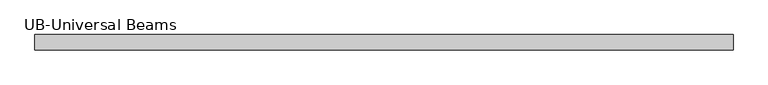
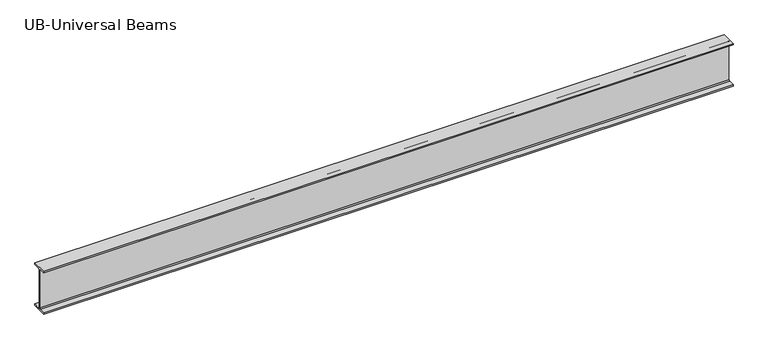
"""IFC4 building model written with IfcOpenShell, lengths in millimetres: beam geometry."""

from ifc_helpers import new_model, si_unit, point, frame, frame_2d, origin, place, context, project, spatial, polyline, circle_curve, trimmed, segment, composite_curve, outline, extrude, source, transform, mapped, element, save


def ub_universal_beams_c84566a2(model_context):
    return source(origin(), model_context, "Body", "SweptSolid", [
        extrude(outline(composite_curve([segment(polyline([(76.9, -214.0), (76.9, -229.0), (-76.9, -229.0), (-76.9, -214.0), (-14.7, -214.0)]), True, "CONTINUOUS"), segment(trimmed(circle_curve(frame_2d((-14.7, -203.8)), 10.2), [point((-14.7, -214.0))], [point((-4.5, -203.8))], True, "CARTESIAN"), True, "CONTINUOUS"), segment(polyline([(-4.5, -203.8), (-4.5, 203.8)]), True, "CONTINUOUS"), segment(trimmed(circle_curve(frame_2d((-14.7, 203.8)), 10.2), [point((-4.5, 203.8))], [point((-14.7, 214.0))], True, "CARTESIAN"), True, "CONTINUOUS"), segment(polyline([(-14.7, 214.0), (-76.9, 214.0), (-76.9, 229.0), (76.9, 229.0), (76.9, 214.0), (14.7, 214.0)]), True, "CONTINUOUS"), segment(trimmed(circle_curve(frame_2d((14.7, 203.8)), 10.2), [point((14.7, 214.0))], [point((4.5, 203.8))], True, "CARTESIAN"), True, "CONTINUOUS"), segment(polyline([(4.5, 203.8), (4.5, -203.8)]), True, "CONTINUOUS"), segment(trimmed(circle_curve(frame_2d((14.7, -203.8)), 10.2), [point((4.5, -203.8))], [point((14.7, -214.0))], True, "CARTESIAN"), True, "CONTINUOUS"), segment(polyline([(14.7, -214.0), (76.9, -214.0)]), True, "CONTINUOUS")], self_intersect=False)), frame((-3499.1, 0.0, 0.0), z_axis=(1.0, 0.0, 0.0), x_axis=(0.0, 1.0, 0.0)), (0.0, 0.0, 1.0), 6998.2),
    ])


if __name__ == "__main__":
    model = new_model("IFC4")
    model_context = context("Model", 3, world=origin())
    ifc_project = project(units=[si_unit("LENGTHUNIT", "METRE", prefix="MILLI")], contexts=[model_context])
    site = spatial("IfcSite", under=ifc_project)
    building = spatial("IfcBuilding", under=site)
    placement = place(None, origin())
    ub_universal_beams_shape = ub_universal_beams_c84566a2(model_context)
    element("IfcBeam", 1, ObjectType="UB-Universal Beams : UB 18\" x 6\" x 2 1/2\"", at=placement, inside=building, context=model_context, shape_type="MappedRepresentation", body=[
        mapped(ub_universal_beams_shape, transform((0.0, 0.0, 0.0), x_axis=(1.0, 0.0, 0.0), y_axis=(0.0, 1.0, 0.0), z_axis=(0.0, 0.0, 1.0))),
    ])
    save(model, "model.ifc")
